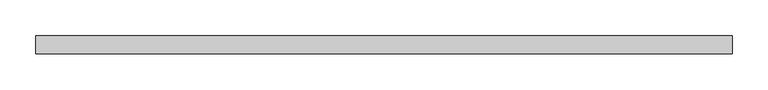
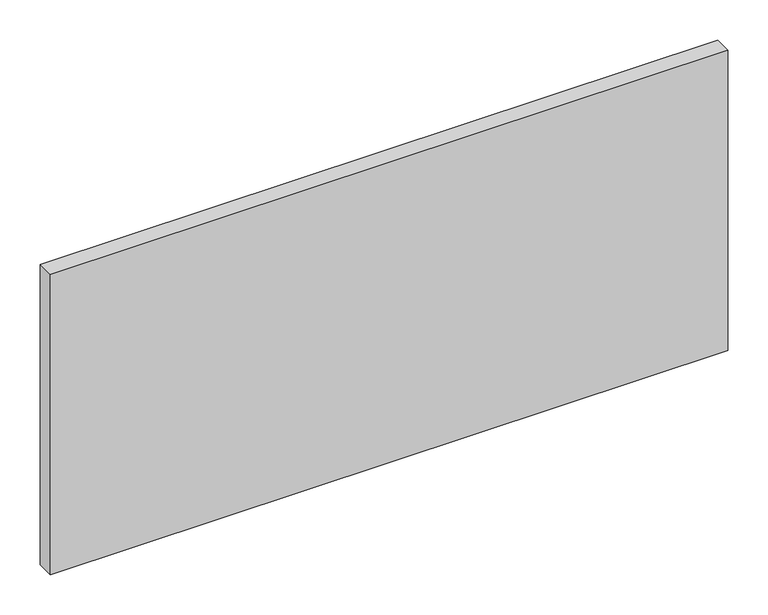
"""IFC4 building model written with IfcOpenShell, lengths in millimetres: plate geometry, 系统嵌板 : 玻璃."""

from ifc_helpers import new_model, si_unit, origin, origin_with_axes, place, context, project, spatial, polyline, outline, extrude, source, transform, mapped, element, save


def plate_47d68db4(model_context):
    return source(origin(), model_context, "Body", "SweptSolid", [
        extrude(outline(polyline([(485.0, -12.5), (-485.0, -12.5), (-485.0, 12.5), (485.0, 12.5), (485.0, -12.5)])), origin_with_axes(), (0.0, 0.0, 1.0), 455.0),
    ])


if __name__ == "__main__":
    model = new_model("IFC4")
    model_context = context("Model", 3, world=origin())
    ifc_project = project(units=[si_unit("LENGTHUNIT", "METRE", prefix="MILLI")], contexts=[model_context])
    site = spatial("IfcSite", under=ifc_project)
    building = spatial("IfcBuilding", under=site)
    placement = place(None, origin())
    plate_shape = plate_47d68db4(model_context)
    element("IfcPlate", 1, ObjectType="系统嵌板 : 玻璃", at=placement, inside=building, context=model_context, shape_type="MappedRepresentation", body=[
        mapped(plate_shape, transform((0.0, 0.0, 0.0), x_axis=(1.0, 0.0, 0.0), y_axis=(0.0, 1.0, 0.0), z_axis=(0.0, 0.0, 1.0))),
    ])
    save(model, "model.ifc")
